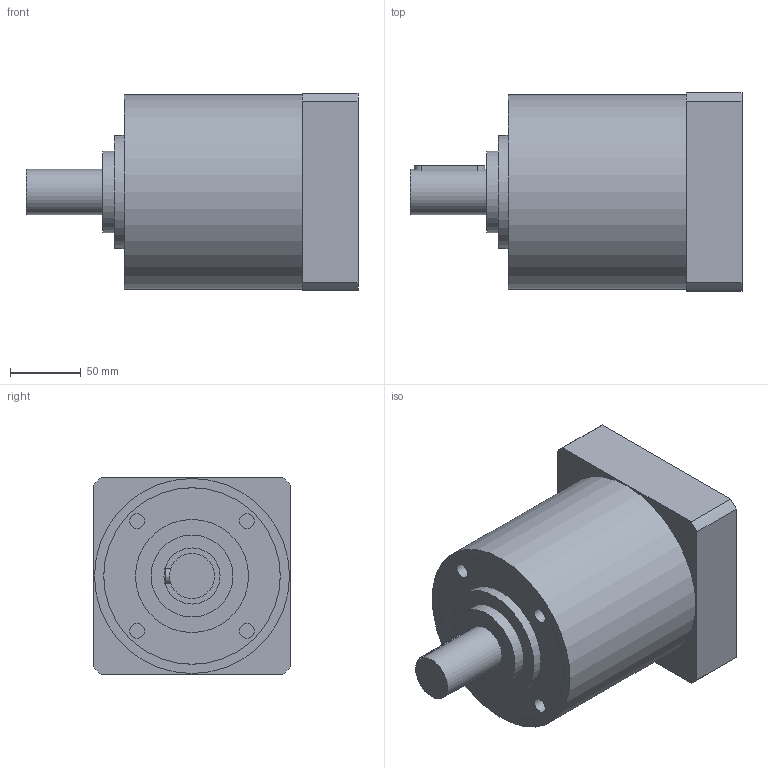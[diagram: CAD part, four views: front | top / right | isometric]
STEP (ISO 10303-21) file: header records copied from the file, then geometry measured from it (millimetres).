
FILE_DESCRIPTION(/* description */ (''),/* implementation_level */ '2;1');
FILE_NAME(/* name */ 'E00018068271MP100610080715_step203.stp',/* time_stamp */ '2010-06-10T08:08:49+02:00',/* author */ (''),/* organization */ (''),/* preprocessor_version */ 'ST-DEVELOPER v11',/* originating_system */ 'UGS - NX 5.0',/* authorisation */ '');
FILE_SCHEMA (('CONFIG_CONTROL_DESIGN'));
Length unit declared in the file: millimetre
Products named in the file (1): E00018068271MP100610080715_M
Bounding box: 235 x 140 x 140 mm (x, y, z)
Volume: 3315554.5 mm3; surface area: 286631.1 mm2
Topology: 9 solids, 9 shells, 101 faces, 211 edges, 140 vertices
Faces by surface type: plane 46, cylinder 41, cone 12, torus 2
Full cylindrical faces by diameter (mm): 5.188 x1, 6.2 x1, 6.985 x1, 8.5 x1, 8.985 x4, 10.5 x1, 10.579 x4, 17.75 x1, 24 x1, 28 x1, 32 x1, 35 x1, 39.732 x1, 56 x1, 58 x1, 80 x1, 108.9 x1, 112.95 x1, 113 x1, 120.9 x1, 124.935 x1, 124.95 x1, 125 x1, 130 x1, 138 x1
Entity records: 2480 total; most frequent: CARTESIAN_POINT 443, DIRECTION 432, ORIENTED_EDGE 292, AXIS2_PLACEMENT_3D 187, EDGE_LOOP 164, EDGE_CURVE 146, FACE_BOUND 132, VERTEX_POINT 124
